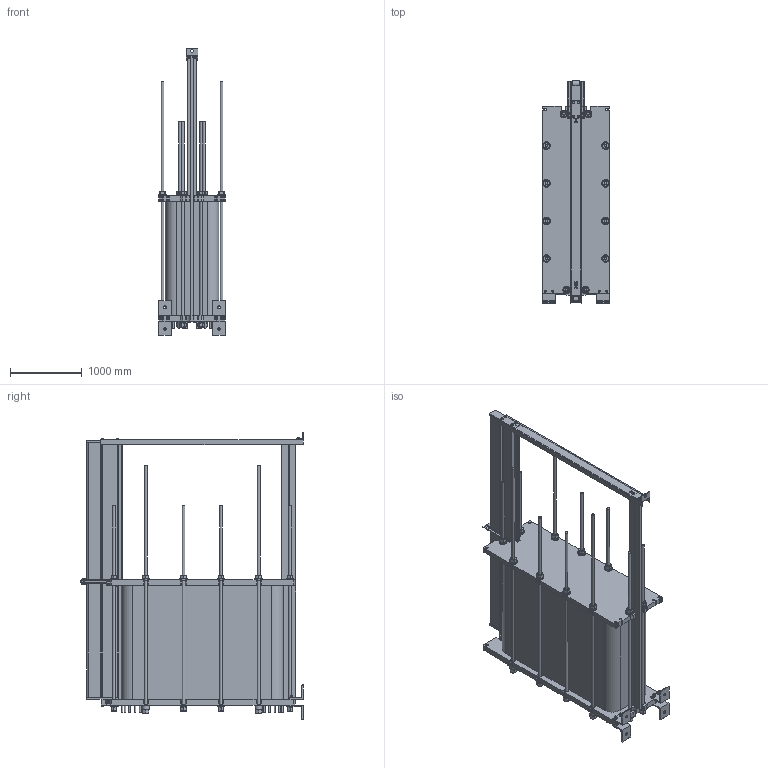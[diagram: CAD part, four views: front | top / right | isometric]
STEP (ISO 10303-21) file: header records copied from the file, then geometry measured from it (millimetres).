
FILE_DESCRIPTION((''),'2;1');
FILE_NAME('C:\temp\MX25_FG_LC3600_7_02_Rev0.stp','2009-09-27T06:41:11',('CNSHFLU'),(''),'Autodesk Inventor 2008','Autodesk Inventor 2008','');
FILE_SCHEMA(('AUTOMOTIVE_DESIGN { 1 2 10303 214 0 1 1 1 }'));
Length unit declared in the file: millimetre
Products named in the file (1): MX25
Bounding box: 925 x 3093.5 x 3985.5 mm (x, y, z)
Volume: 2820190217.5 mm3; surface area: 41027720.1 mm2
Topology: 1 solids, 17 shells, 2848 faces, 6761 edges, 4217 vertices
Faces by surface type: plane 1397, cone 728, cylinder 636, bspline 87
Full cylindrical faces by diameter (mm): 9.45 x4, 12 x12, 13 x10, 14 x2, 18 x4, 20 x63, 21 x13, 22 x5, 24 x20, 25 x8, 26 x4, 30 x2, 34.295 x4, 37 x10, 39 x24, 40 x5, 44 x8, 53 x24, 63 x12, 90 x9, 96 x4, 105 x12, 229 x4, 230 x4
Entity records: 79191 total; most frequent: CARTESIAN_POINT 17054, DIRECTION 12826, ORIENTED_EDGE 12636, EDGE_CURVE 6318, AXIS2_PLACEMENT_3D 4994, VERTEX_POINT 4166, EDGE_LOOP 3590, FACE_OUTER_BOUND 2848
